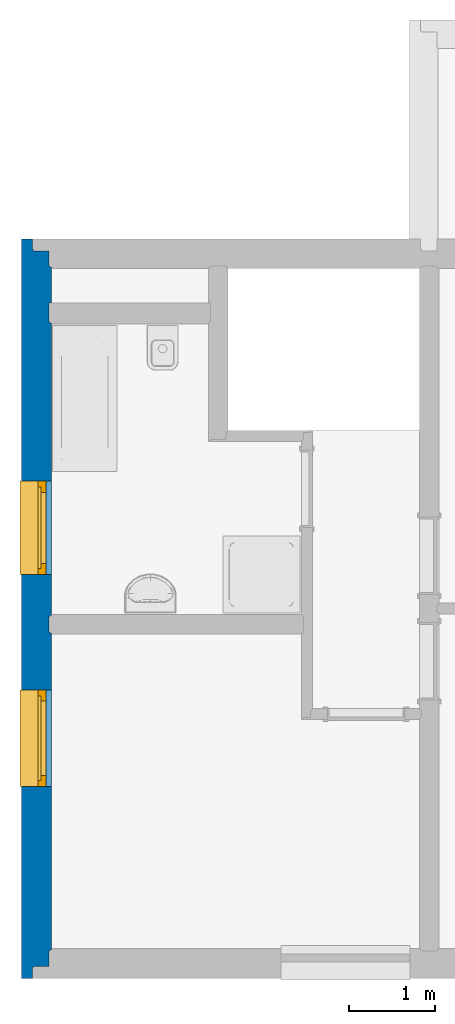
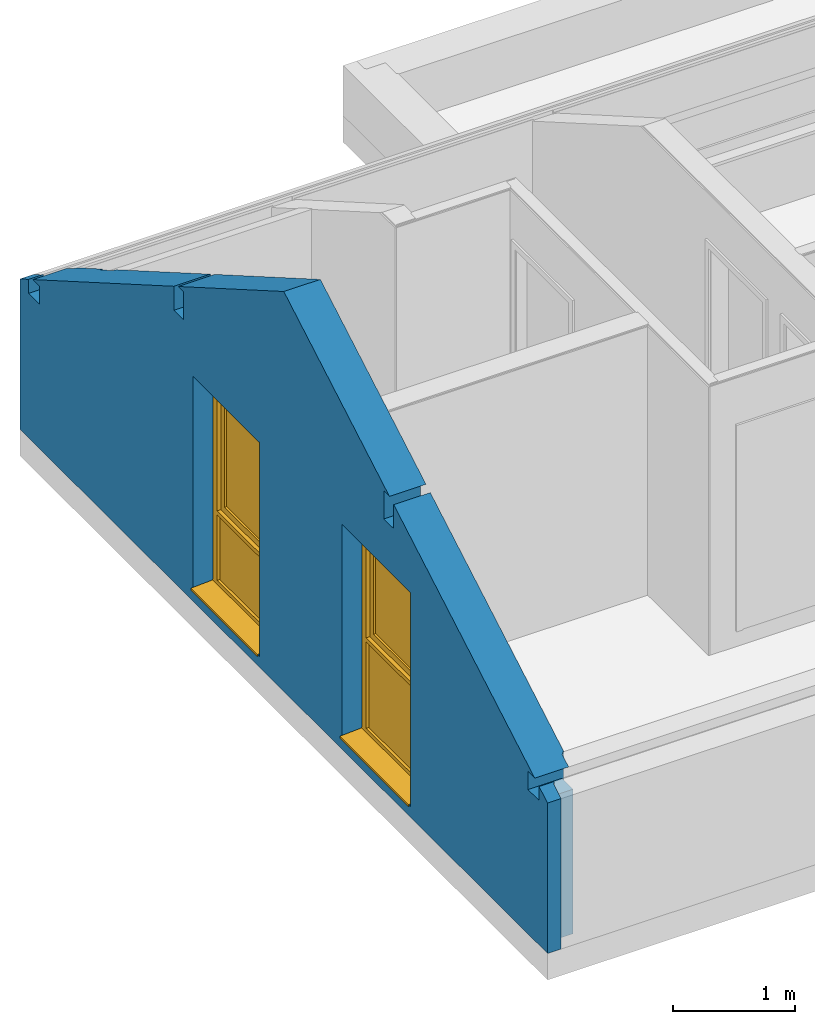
# One storey, part 3 of 7: 2 windows, 1 wall, 2 openings.
"""IFC2X3 building model written with IfcOpenShell, lengths in millimetres."""

from ifc_helpers import new_model, entity, si_unit, converted_unit, derived_unit, money_unit, direction, frame, origin_with_axes, place, context, subcontext, project, spatial, open_shell, faceted_brep, surface_model, material, material_list, type_object, element, fill, save


model = new_model("IFC2X3")

# Units and contexts
model_context = context("Model", 3, precision=0.01, world=origin_with_axes(), true_north=direction((0.0, 1.0)))
body_context = subcontext(model_context, "Body", "Model", "MODEL_VIEW")
ifc_project = project(units=[si_unit("LENGTHUNIT", "METRE", prefix="MILLI"), si_unit("AREAUNIT", "SQUARE_METRE"), si_unit("VOLUMEUNIT", "CUBIC_METRE"), converted_unit("PLANEANGLEUNIT", "DEGREE", entity("IfcPlaneAngleMeasure", 0.0174532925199), si_unit("PLANEANGLEUNIT", "RADIAN"), dimensions=[0, 0, 0, 0, 0, 0, 0]), si_unit("SOLIDANGLEUNIT", "STERADIAN"), money_unit("USD"), converted_unit("TIMEUNIT", "Year", entity("IfcTimeMeasure", 31556926.0), si_unit("TIMEUNIT", "SECOND"), dimensions=[0, 0, 1, 0, 0, 0, 0]), si_unit("MASSUNIT", "GRAM", prefix="KILO"), si_unit("THERMODYNAMICTEMPERATUREUNIT", "DEGREE_CELSIUS"), si_unit("LUMINOUSINTENSITYUNIT", "LUMEN"), si_unit("ENERGYUNIT", "JOULE", prefix="MEGA"), derived_unit("THERMALCONDUCTANCEUNIT", [(si_unit("POWERUNIT", "WATT"), 1), (si_unit("LENGTHUNIT", "METRE"), -1), (si_unit("THERMODYNAMICTEMPERATUREUNIT", "KELVIN"), -1)]), derived_unit("SPECIFICHEATCAPACITYUNIT", [(si_unit("ENERGYUNIT", "JOULE"), 1), (si_unit("MASSUNIT", "GRAM", prefix="KILO"), -1), (si_unit("THERMODYNAMICTEMPERATUREUNIT", "KELVIN"), -1)]), derived_unit("MASSDENSITYUNIT", [(si_unit("MASSUNIT", "GRAM", prefix="KILO"), 1), (si_unit("VOLUMEUNIT", "CUBIC_METRE"), -1)])], contexts=[model_context])

# Site, building, storey
site_placement = place(None, origin_with_axes())
site = spatial("IfcSite", under=ifc_project, at=site_placement, Name="Lokalizacja", CompositionType="ELEMENT")
building_placement = place(site_placement, origin_with_axes())
building = spatial("IfcBuilding", under=site, at=building_placement, Name="Budynek", CompositionType="ELEMENT")
storey_placement = place(building_placement, frame((0.0, 0.0, 2954.0), z_axis=(0.0, 0.0, 1.0), x_axis=(1.0, 0.0, 0.0)))
storey = spatial("IfcBuildingStorey", under=building, at=storey_placement, Name="DG", CompositionType="ELEMENT", Elevation=2954.0)

# Wall, openings, windows
ifc_material_1 = material(Name="Płyta GK")
ifc_material_2 = material(Name="Płyta OSB")
ifc_material_3 = material(Name="Drewno konstrukcyjne")
ifc_material_4 = material(Name="Płyty styropianowe miękkie")
ifc_material_list = material_list([ifc_material_1, ifc_material_2, ifc_material_3, ifc_material_2, ifc_material_4])
wall_type = type_object("IfcWallType", Name="002- _dan_SZ_345 345", PredefinedType="NOTDEFINED")
wall_placement = place(storey_placement, frame((1.15823794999e-07, 1.16529008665e-09, -160.0), z_axis=(0.0, 0.0, 1.0), x_axis=(0.0, -1.0, 0.0)))
wall = element("IfcWall", 1, at=wall_placement, inside=storey, type_object=wall_type, material=ifc_material_list, Name="SZ2", context=body_context, shape_type="Brep", body=[
    faceted_brep([(2239.09167504, -13.0, 2992.0), (2239.09167504, 1.46637506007e-05, 2992.0), (2329.00015984, 1.46637505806e-05, 2992.0), (2329.00015984, -13.0, 2992.0), (3965.00117698, 9.86424186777e-06, 3988.45431554), (3965.00117839, -12.999997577, 3988.45431635), (637.000159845, 1.12678220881e-05, 2067.03203244), (2169.00015984, 1.46637506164e-05, 2951.53264483), (2169.00015984, 1.46637506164e-05, 2712.0), (2329.00015984, 1.46637505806e-05, 2712.0), (5690.90864033, 1.46637498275e-05, 2992.0), (5601.00236524, 1.46637498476e-05, 2992.0), (5601.00236524, 1.46637498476e-05, 2712.0), (5761.00236524, 1.46637498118e-05, 2712.0), (5761.00236524, 1.46637498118e-05, 2951.53136905), (7942.99728939, 1.45989797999e-05, 1691.75601222), (7942.99728939, 0.0, 0.0), (4250.5279971, 0.0, 0.0), (4250.5279971, 1.46637501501e-05, 2690.0), (4046.5279971, 1.46637501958e-05, 2690.0), (4046.5279971, 0.0, 0.0), (637.000159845, 0.0, 0.0), (2329.00015984, -13.0, 2712.0), (2169.00015984, -13.0, 2951.53264483), (637.000159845, -13.0000037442, 2067.03203244), (637.000159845, -13.0, 0.0), (4046.5279971, -13.0, 0.0), (4046.5279971, -13.0000048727, 2690.0), (4250.5279971, -13.0000048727, 2690.0), (4250.5279971, -13.0, 0.0), (7942.99728939, -13.0, 0.0), (7942.99728939, -13.0000048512, 1691.75601222), (5761.00236524, -13.0, 2951.53136905), (5761.00236524, -13.0, 2712.0), (5601.00236524, -13.0, 2712.0), (5601.00236524, -13.0, 2992.0), (5690.90864033, -13.0, 2992.0), (2169.00015984, -13.0, 2712.0)], [[[0, 1, 2, 3]], [[4, 1, 0, 5]], [[6, 7, 8, 9, 2, 1, 4, 10, 11, 12, 13, 14, 15, 16, 17, 18, 19, 20, 21]], [[22, 3, 2, 9]], [[23, 24, 25, 26, 27, 28, 29, 30, 31, 32, 33, 34, 35, 36, 5, 0, 3, 22, 37]], [[4, 5, 36, 10]], [[7, 6, 24, 23]], [[7, 23, 37, 8]], [[37, 22, 9, 8]], [[11, 10, 36, 35]], [[35, 34, 12, 11]], [[34, 33, 13, 12]], [[33, 32, 14, 13]], [[15, 14, 32, 31]], [[16, 15, 31, 30]], [[30, 29, 17, 16]], [[17, 29, 28, 18]], [[28, 27, 19, 18]], [[19, 27, 26, 20]], [[21, 20, 26, 25]], [[24, 6, 21, 25]]]),
    faceted_brep([(-13.0, -12.9999903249, 1691.75426518), (-13.0, 5.04165776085e-06, 1691.75426518), (-13.0, 0.0, 0.0), (-13.0, -13.0, 0.0), (405.000159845, -13.0000035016, 1933.08676998), (405.000159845, 1.05376586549e-05, 1933.08676998), (405.000159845, 0.0, 0.0), (405.000159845, -13.0, 0.0)], [[[0, 1, 2, 3]], [[1, 0, 4, 5]], [[1, 5, 6, 2]], [[7, 3, 2, 6]], [[4, 0, 3, 7]], [[5, 4, 7, 6]]]),
    faceted_brep([(2239.09167504, -25.0, 2992.0), (2239.09167504, -13.0000048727, 2992.0), (2329.00015984, -13.0000048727, 2992.0), (2329.00015984, -25.0, 2992.0), (3965.00117839, -12.999997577, 3988.45431635), (3965.00117968, -24.9999999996, 3988.4543171), (625.000159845, -13.0000037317, 2060.1038292), (2169.00015984, -13.0000048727, 2951.53264483), (2169.00015984, -13.0000048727, 2712.0), (2329.00015984, -13.0000048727, 2712.0), (5690.90864033, -13.0000048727, 2992.0), (5601.00236524, -13.0000048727, 2992.0), (5601.00236524, -13.0000048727, 2712.0), (5761.00236524, -13.0000048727, 2712.0), (5761.00236524, -13.0000048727, 2951.53136905), (7954.99728939, -13.0000048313, 1684.82780899), (7954.99728939, -13.0, 0.0), (4238.5279971, -13.0, 0.0), (4238.5279971, -13.0000048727, 2690.0), (4058.5279971, -13.0000048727, 2690.0), (4058.5279971, -13.0, 0.0), (625.000159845, -13.0, 0.0), (2329.00015984, -25.0, 2712.0), (2169.00015984, -25.0, 2951.53264483), (625.000159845, -25.0, 2060.1038292), (625.000159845, -25.0, 0.0), (4058.5279971, -25.0, 0.0), (4058.5279971, -25.0, 2690.0), (4238.5279971, -25.0, 2690.0), (4238.5279971, -25.0, 0.0), (7954.99728939, -25.0, 0.0), (7954.99728939, -25.0, 1684.82780899), (5761.00236524, -25.0, 2951.53136905), (5761.00236524, -25.0, 2712.0), (5601.00236524, -25.0, 2712.0), (5601.00236524, -25.0, 2992.0), (5690.90864033, -25.0, 2992.0), (2169.00015984, -25.0, 2712.0)], [[[0, 1, 2, 3]], [[4, 1, 0, 5]], [[6, 7, 8, 9, 2, 1, 4, 10, 11, 12, 13, 14, 15, 16, 17, 18, 19, 20, 21]], [[22, 3, 2, 9]], [[23, 24, 25, 26, 27, 28, 29, 30, 31, 32, 33, 34, 35, 36, 5, 0, 3, 22, 37]], [[4, 5, 36, 10]], [[7, 6, 24, 23]], [[7, 23, 37, 8]], [[37, 22, 9, 8]], [[11, 10, 36, 35]], [[35, 34, 12, 11]], [[34, 33, 13, 12]], [[33, 32, 14, 13]], [[15, 14, 32, 31]], [[16, 15, 31, 30]], [[30, 29, 17, 16]], [[17, 29, 28, 18]], [[18, 28, 27, 19]], [[19, 27, 26, 20]], [[21, 20, 26, 25]], [[24, 6, 21, 25]]]),
    faceted_brep([(-25.0, -25.0, 1684.82606195), (-25.0, -12.9999903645, 1684.82606195), (-25.0, -13.0, 0.0), (-25.0, -25.0, 0.0), (405.000159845, -25.0, 1933.08676998), (405.000159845, -13.0000035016, 1933.08676998), (405.000159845, -13.0, 0.0), (405.000159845, -25.0, 0.0)], [[[0, 1, 2, 3]], [[1, 0, 4, 5]], [[1, 5, 6, 2]], [[7, 3, 2, 6]], [[4, 0, 3, 7]], [[5, 4, 7, 6]]]),
    faceted_brep([(2239.09167504, -205.0, 2992.0), (2239.09167504, -25.0, 2992.0), (2329.00015984, -25.0, 2992.0), (2329.00015984, -205.0, 2992.0), (3965.00117968, -24.9999999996, 3988.4543171), (3965.00119912, -205.0, 3988.45432833), (-135.000000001, -25.0, 1621.31753233), (2169.00015984, -25.0, 2951.53264483), (2169.00015984, -25.0, 2712.0), (2329.00015984, -25.0, 2712.0), (5690.90864033, -25.0, 2992.0), (5601.00236524, -25.0, 2992.0), (5601.00236524, -25.0, 2712.0), (5761.00236524, -25.0, 2712.0), (5761.00236524, -25.0, 2951.53136905), (8065.00031537, -25.0, 1621.31753233), (7955.00031537, -25.0, 1621.31753233), (7955.00031537, -25.0, 1441.31753233), (8135.00031537, -25.0, 1441.31753233), (8134.99728939, -25.0, 0.0), (-205.0, -25.0, 0.0), (-205.0, -25.0, 1441.31753233), (-25.0, -25.0, 1441.31753233), (-25.0, -25.0, 1621.31753233), (2329.00015984, -205.0, 2712.0), (2169.00015984, -205.0, 2951.53264483), (-135.000000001, -205.0, 1621.31753233), (-25.0, -205.0, 1621.31753233), (-25.0, -205.0, 1441.31753233), (-205.0, -205.0, 1441.31753233), (-205.0, -205.0, 0.0), (8134.99728939, -205.0, 0.0), (8135.00031537, -205.0, 1441.31753233), (7955.00031537, -205.0, 1441.31753233), (7955.00031537, -205.0, 1621.31753233), (8065.00031537, -205.0, 1621.31753233), (5761.00236524, -205.0, 2951.53136905), (5761.00236524, -205.0, 2712.0), (5601.00236524, -205.0, 2712.0), (5601.00236524, -205.0, 2992.0), (5690.90864033, -205.0, 2992.0), (2169.00015984, -205.0, 2712.0)], [[[0, 1, 2, 3]], [[4, 1, 0, 5]], [[6, 7, 8, 9, 2, 1, 4, 10, 11, 12, 13, 14, 15, 16, 17, 18, 19, 20, 21, 22, 23]], [[24, 3, 2, 9]], [[25, 26, 27, 28, 29, 30, 31, 32, 33, 34, 35, 36, 37, 38, 39, 40, 5, 0, 3, 24, 41]], [[4, 5, 40, 10]], [[6, 26, 25, 7]], [[7, 25, 41, 8]], [[41, 24, 9, 8]], [[11, 10, 40, 39]], [[39, 38, 12, 11]], [[38, 37, 13, 12]], [[37, 36, 14, 13]], [[15, 14, 36, 35]], [[16, 15, 35, 34]], [[34, 33, 17, 16]], [[33, 32, 18, 17]], [[31, 19, 18, 32]], [[31, 30, 20, 19]], [[20, 30, 29, 21]], [[29, 28, 22, 21]], [[28, 27, 23, 22]], [[26, 6, 23, 27]]]),
    faceted_brep([(2239.09167504, -217.0, 2992.0), (2239.09167504, -205.0, 2992.0), (2329.00015984, -205.0, 2992.0), (2329.00015984, -217.0, 2992.0), (3965.00119912, -205.0, 3988.45432833), (3965.00120042, -217.000012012, 3988.45432907), (-217.0, -205.0, 1573.97481026), (-205.0, -205.0, 1580.90301349), (-205.0, -205.0, 1441.31753233), (-25.0, -205.0, 1441.31753233), (-25.0, -205.0, 1621.31753233), (-135.000000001, -205.0, 1621.31753233), (2169.00015984, -205.0, 2951.53264483), (2169.00015984, -205.0, 2712.0), (2329.00015984, -205.0, 2712.0), (5690.90864033, -205.0, 2992.0), (5601.00236524, -205.0, 2992.0), (5601.00236524, -205.0, 2712.0), (5761.00236524, -205.0, 2712.0), (5761.00236524, -205.0, 2951.53136905), (8065.00031537, -205.0, 1621.31753233), (7955.00031537, -205.0, 1621.31753233), (7955.00031537, -205.0, 1441.31753233), (8135.00031537, -205.0, 1441.31753233), (8135.00031537, -205.0, 1580.90301349), (8146.99728939, -205.0, 1573.97655731), (8146.99728939, -205.0, 0.0), (-217.0, -205.0, 0.0), (2329.00015984, -217.0, 2712.0), (-205.0, -217.0, 1580.90301349), (-217.0, -217.00001328, 1573.97481026), (-217.0, -217.0, 0.0), (8146.99728939, -217.0, 0.0), (8146.99728939, -217.000008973, 1573.97655731), (8135.00031537, -217.0, 1580.90301349), (8135.00031537, -217.0, 1441.31753233), (7955.00031537, -217.0, 1441.31753233), (7955.00031537, -217.0, 1621.31753233), (8065.00031537, -217.0, 1621.31753233), (5761.00236524, -217.0, 2951.53136905), (5761.00236524, -217.0, 2712.0), (5601.00236524, -217.0, 2712.0), (5601.00236524, -217.0, 2992.0), (5690.90864033, -217.0, 2992.0), (2169.00015984, -217.0, 2712.0), (2169.00015984, -217.0, 2951.53264483), (-135.000000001, -217.0, 1621.31753233), (-25.0, -217.0, 1621.31753233), (-25.0, -217.0, 1441.31753233), (-205.0, -217.0, 1441.31753233)], [[[0, 1, 2, 3]], [[4, 1, 0, 5]], [[6, 7, 8, 9, 10, 11, 12, 13, 14, 2, 1, 4, 15, 16, 17, 18, 19, 20, 21, 22, 23, 24, 25, 26, 27]], [[28, 3, 2, 14]], [[29, 30, 31, 32, 33, 34, 35, 36, 37, 38, 39, 40, 41, 42, 43, 5, 0, 3, 28, 44, 45, 46, 47, 48, 49]], [[4, 5, 43, 15]], [[7, 6, 30, 29]], [[7, 29, 49, 8]], [[49, 48, 9, 8]], [[48, 47, 10, 9]], [[46, 11, 10, 47]], [[11, 46, 45, 12]], [[12, 45, 44, 13]], [[44, 28, 14, 13]], [[16, 15, 43, 42]], [[42, 41, 17, 16]], [[41, 40, 18, 17]], [[40, 39, 19, 18]], [[20, 19, 39, 38]], [[21, 20, 38, 37]], [[37, 36, 22, 21]], [[36, 35, 23, 22]], [[35, 34, 24, 23]], [[33, 25, 24, 34]], [[26, 25, 33, 32]], [[32, 31, 27, 26]], [[30, 6, 27, 31]]]),
    faceted_brep([(2239.09167504, -345.0, 2992.0), (2239.09167504, -217.000009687, 2992.0), (2329.00015984, -217.000009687, 2992.0), (2329.00015984, -345.0, 2992.0), (3965.00120042, -217.000012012, 3988.45432907), (3965.00121425, -345.0, 3988.45433706), (-344.999995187, -217.000012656, 1500.07397858), (-205.0, -217.000009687, 1580.90301349), (-205.0, -217.000009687, 1441.31753233), (-25.0, -217.000009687, 1441.31753233), (-25.0, -217.000009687, 1621.31753233), (-135.000000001, -217.000009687, 1621.31753233), (2169.00015984, -217.000009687, 2951.53264483), (2169.00015984, -217.000009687, 2712.0), (2329.00015984, -217.000009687, 2712.0), (5690.90864033, -217.000009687, 2992.0), (5601.00236524, -217.000009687, 2992.0), (5601.00236524, -217.000009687, 2712.0), (5761.00236524, -217.000009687, 2712.0), (5761.00236524, -217.000009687, 2951.53136905), (8065.00031537, -217.000009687, 1621.31753233), (7955.00031537, -217.000009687, 1621.31753233), (7955.00031537, -217.000009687, 1441.31753233), (8135.00031537, -217.000009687, 1441.31753233), (8135.00031537, -217.000009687, 1580.90301349), (8274.99728939, -217.000008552, 1500.07572285), (8274.99728939, -217.0, 0.0), (-344.999995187, -217.0, 0.0), (2329.00015984, -345.0, 2712.0), (-205.0, -345.0, 1580.90301349), (-344.999995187, -345.0, 1500.07397858), (-344.999995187, -345.0, 0.0), (8274.99728939, -345.0, 0.0), (8274.99728939, -345.0, 1500.07572285), (8135.00031537, -345.0, 1580.90301349), (8135.00031537, -345.0, 1441.31753233), (7955.00031537, -345.0, 1441.31753233), (7955.00031537, -345.0, 1621.31753233), (8065.00031537, -345.0, 1621.31753233), (5761.00236524, -345.0, 2951.53136905), (5761.00236524, -345.0, 2712.0), (5601.00236524, -345.0, 2712.0), (5601.00236524, -345.0, 2992.0), (5690.90864033, -345.0, 2992.0), (2169.00015984, -345.0, 2712.0), (2169.00015984, -345.0, 2951.53264483), (-135.000000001, -345.0, 1621.31753233), (-25.0, -345.0, 1621.31753233), (-25.0, -345.0, 1441.31753233), (-205.0, -345.0, 1441.31753233)], [[[0, 1, 2, 3]], [[4, 1, 0, 5]], [[6, 7, 8, 9, 10, 11, 12, 13, 14, 2, 1, 4, 15, 16, 17, 18, 19, 20, 21, 22, 23, 24, 25, 26, 27]], [[28, 3, 2, 14]], [[29, 30, 31, 32, 33, 34, 35, 36, 37, 38, 39, 40, 41, 42, 43, 5, 0, 3, 28, 44, 45, 46, 47, 48, 49]], [[4, 5, 43, 15]], [[7, 6, 30, 29]], [[7, 29, 49, 8]], [[49, 48, 9, 8]], [[48, 47, 10, 9]], [[46, 11, 10, 47]], [[11, 46, 45, 12]], [[12, 45, 44, 13]], [[44, 28, 14, 13]], [[16, 15, 43, 42]], [[42, 41, 17, 16]], [[41, 40, 18, 17]], [[40, 39, 19, 18]], [[20, 19, 39, 38]], [[21, 20, 38, 37]], [[37, 36, 22, 21]], [[36, 35, 23, 22]], [[35, 34, 24, 23]], [[33, 25, 24, 34]], [[26, 25, 33, 32]], [[32, 31, 27, 26]], [[30, 6, 27, 31]]]),
])
opening_1_placement = place(wall_placement, frame((3025.00000588, 0.0, 107.0), z_axis=(0.0, 0.0, 1.0), x_axis=(1.0, 0.0, 0.0)))
opening_1 = element("IfcOpeningElement", 2, at=opening_1_placement, cuts=wall, context=body_context, shape_type="Brep", body=[
    faceted_brep([(545.0, -690.0, 2135.0), (545.0, -690.0, 0.0), (545.0, -157.0, 0.0), (545.0, -157.0, 2135.0), (-545.0, -690.0, 2135.0), (-545.0, -690.0, 0.0), (-545.0, -157.0, 0.0), (-545.0, -157.0, 2135.0)], [[[0, 1, 2, 3]], [[0, 4, 5, 1]], [[1, 5, 6, 2]], [[3, 2, 6, 7]], [[4, 0, 3, 7]], [[5, 4, 7, 6]]]),
    faceted_brep([(545.0, 345.0, 0.0), (545.0, 345.0, 2135.0), (545.0, -157.0, 2135.0), (545.0, -157.0, 0.0), (-545.0, 345.0, 0.0), (-545.0, 345.0, 2135.0), (-545.0, -157.0, 2135.0), (-545.0, -157.0, 0.0)], [[[0, 1, 2, 3]], [[0, 4, 5, 1]], [[1, 5, 6, 2]], [[3, 2, 6, 7]], [[4, 0, 3, 7]], [[5, 4, 7, 6]]]),
])
opening_2_placement = place(wall_placement, frame((5476.49985193, 0.0, 107.0), z_axis=(0.0, 0.0, 1.0), x_axis=(1.0, 0.0, 0.0)))
opening_2 = element("IfcOpeningElement", 3, at=opening_2_placement, cuts=wall, context=body_context, shape_type="Brep", body=[
    faceted_brep([(-562.5, -157.0, 2135.0), (-562.5, -157.0, 0.0), (-562.5, -690.0, 0.0), (-562.5, -690.0, 2135.0), (562.5, -157.0, 2135.0), (562.5, -157.0, 0.0), (562.5, -690.0, 0.0), (562.5, -690.0, 2135.0)], [[[0, 1, 2, 3]], [[0, 4, 5, 1]], [[1, 5, 6, 2]], [[3, 2, 6, 7]], [[4, 0, 3, 7]], [[5, 4, 7, 6]]]),
    faceted_brep([(-562.5, -157.0, 0.0), (-562.5, -157.0, 2135.0), (-562.5, 345.0, 2135.0), (-562.5, 345.0, 0.0), (562.5, -157.0, 0.0), (562.5, -157.0, 2135.0), (562.5, 345.0, 2135.0), (562.5, 345.0, 0.0)], [[[0, 1, 2, 3]], [[0, 4, 5, 1]], [[1, 5, 6, 2]], [[3, 2, 6, 7]], [[4, 0, 3, 7]], [[5, 4, 7, 6]]]),
])
window_style_1 = type_object("IfcWindowStyle", Name="Okno nietypowe 24", ConstructionType="NOTDEFINED", OperationType="DOUBLE_PANEL_HORIZONTAL", ParameterTakesPrecedence=False, Sizeable=False)
window_1_placement = place(opening_1_placement, frame((-535.0, 0.0, 0.0), z_axis=(0.0, 0.0, 1.0), x_axis=(1.0, 0.0, 0.0)))
window_1 = element("IfcWindow", 4, at=window_1_placement, inside=storey, type_object=window_style_1, OverallHeight=2135.0, OverallWidth=1090.0, context=body_context, shape_type="SurfaceModel", body=[
    faceted_brep([(59.9, -121.0, 2065.0), (59.9, -61.0, 2065.0), (-10.0, -61.0, 2065.0), (-10.0, -157.0, 2065.0), (60.0, -157.0, 2065.0), (60.0, -121.0, 2065.0), (59.9, -121.0, 769.9), (59.9, -61.0, 769.9), (60.0, -61.0, 769.9), (60.0, -61.0, 730.0), (60.0, -61.0, 77.0), (-10.0, -61.0, 77.0), (-10.0, -157.0, 77.0), (60.0, -157.0, 730.0), (60.0, -157.0, 770.0), (60.0, -157.0, 77.0), (60.0, -121.0, 770.0), (60.0, -121.0, 769.9)], [[[0, 1, 2, 3, 4, 5]], [[1, 0, 6, 7]], [[1, 7, 8, 9, 10, 11, 2]], [[3, 2, 11, 12]], [[13, 14, 4, 3, 12, 15]], [[16, 5, 4, 14]], [[5, 16, 17, 6, 0]], [[8, 7, 6, 17]], [[8, 17, 16, 14, 13, 9]], [[15, 10, 9, 13]], [[12, 11, 10, 15]]]),
    faceted_brep([(1010.1, -121.0, 2065.0), (1010.0, -121.0, 2065.0), (1010.0, -157.0, 2065.0), (1080.0, -157.0, 2065.0), (1080.0, -61.0, 2065.0), (1010.1, -61.0, 2065.0), (1010.1, -121.0, 769.9), (1010.0, -121.0, 769.9), (1010.0, -121.0, 770.0), (1010.0, -157.0, 770.0), (1010.0, -157.0, 77.0), (1080.0, -157.0, 77.0), (1010.0, -157.0, 730.0), (1080.0, -61.0, 77.0), (1010.0, -61.0, 769.9), (1010.1, -61.0, 769.9), (1010.0, -61.0, 77.0), (1010.0, -61.0, 730.0)], [[[0, 1, 2, 3, 4, 5]], [[1, 0, 6, 7, 8]], [[1, 8, 9, 2]], [[10, 11, 3, 2, 9, 12]], [[11, 13, 4, 3]], [[14, 15, 5, 4, 13, 16, 17]], [[5, 15, 6, 0]], [[15, 14, 7, 6]], [[8, 7, 14, 17, 12, 9]], [[10, 16, 13, 11]], [[12, 17, 16, 10]]]),
    faceted_brep([(59.9, -61.0, 2065.1), (59.9, -61.0, 2065.0), (-10.0, -61.0, 2065.0), (-10.0, -61.0, 2135.0), (1080.0, -61.0, 2135.0), (1080.0, -61.0, 2065.0), (1010.1, -61.0, 2065.0), (1010.1, -61.0, 2065.1), (59.9, -121.0, 2065.1), (59.9, -121.0, 2065.0), (60.0, -121.0, 2065.0), (60.0, -157.0, 2065.0), (-10.0, -157.0, 2065.0), (-10.0, -157.0, 2135.0), (1080.0, -157.0, 2135.0), (1080.0, -157.0, 2065.0), (1010.0, -121.0, 2065.0), (1010.1, -121.0, 2065.0), (1010.0, -157.0, 2065.0), (1010.1, -121.0, 2065.1)], [[[0, 1, 2, 3, 4, 5, 6, 7]], [[1, 0, 8, 9]], [[1, 9, 10, 11, 12, 2]], [[13, 3, 2, 12]], [[14, 4, 3, 13]], [[15, 5, 4, 14]], [[16, 17, 6, 5, 15, 18]], [[7, 6, 17, 19]], [[0, 7, 19, 8]], [[17, 16, 10, 9, 8, 19]], [[10, 16, 18, 11]], [[18, 15, 14, 13, 12, 11]]]),
    faceted_brep([(1010.1, -121.0, 829.9), (950.1, -121.0, 829.9), (950.1, -61.0, 829.9), (1010.1, -61.0, 829.9), (950.1, -121.0, 2005.1), (1010.1, -121.0, 2005.1), (950.1, -61.0, 2005.1), (1010.1, -61.0, 2005.1)], [[[0, 1, 2, 3]], [[4, 1, 0, 5]], [[1, 4, 6, 2]], [[3, 2, 6, 7]], [[5, 0, 3, 7]], [[4, 5, 7, 6]]]),
    faceted_brep([(59.9, -121.0, 2005.1), (59.9, -121.0, 2065.1), (59.9, -61.0, 2065.1), (59.9, -61.0, 2005.1), (1010.1, -121.0, 2065.1), (119.9, -121.0, 2005.1), (950.1, -121.0, 2005.1), (1010.1, -121.0, 2005.1), (1010.1, -61.0, 2065.1), (1010.1, -61.0, 2005.1), (950.1, -61.0, 2005.1), (119.9, -61.0, 2005.1)], [[[0, 1, 2, 3]], [[4, 1, 0, 5, 6, 7]], [[1, 4, 8, 2]], [[3, 2, 8, 9, 10, 11]], [[5, 0, 3, 11]], [[6, 5, 11, 10]], [[7, 6, 10, 9]], [[4, 7, 9, 8]]]),
    surface_model("IfcShellBasedSurfaceModel", [(119.9, -101.0, 829.9), (950.1, -101.0, 829.9), (950.1, -101.0, 2005.1), (119.9, -101.0, 2005.1)], [open_shell([[[0, 1, 2, 3]]])]),
    surface_model("IfcShellBasedSurfaceModel", [(119.9, -81.0, 829.9), (119.9, -81.0, 2005.1), (950.1, -81.0, 2005.1), (950.1, -81.0, 829.9)], [open_shell([[[0, 1, 2, 3]]])]),
    faceted_brep([(59.9, -121.0, 2005.1), (119.9, -121.0, 2005.1), (119.9, -61.0, 2005.1), (59.9, -61.0, 2005.1), (119.9, -121.0, 829.9), (59.9, -121.0, 829.9), (119.9, -61.0, 829.9), (59.9, -61.0, 829.9)], [[[0, 1, 2, 3]], [[4, 1, 0, 5]], [[1, 4, 6, 2]], [[3, 2, 6, 7]], [[5, 0, 3, 7]], [[4, 5, 7, 6]]]),
    faceted_brep([(1010.1, -121.0, 829.9), (1010.1, -121.0, 769.9), (1010.1, -61.0, 769.9), (1010.1, -61.0, 829.9), (59.9, -121.0, 769.9), (950.1, -121.0, 829.9), (119.9, -121.0, 829.9), (59.9, -121.0, 829.9), (59.9, -61.0, 769.9), (59.9, -61.0, 829.9), (119.9, -61.0, 829.9), (950.1, -61.0, 829.9)], [[[0, 1, 2, 3]], [[4, 1, 0, 5, 6, 7]], [[1, 4, 8, 2]], [[3, 2, 8, 9, 10, 11]], [[5, 0, 3, 11]], [[6, 5, 11, 10]], [[7, 6, 10, 9]], [[4, 7, 9, 8]]]),
    surface_model("IfcShellBasedSurfaceModel", [(-10.0, -158.0, 50.0), (-10.0, -158.0, 40.0), (1080.0, -158.0, 40.0), (1080.0, -158.0, 50.0), (-10.0, -365.0, 28.9361702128), (1080.0, -365.0, 28.9361702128), (-10.0, -365.0, 8.93617021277), (1080.0, -365.0, 8.93617021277), (-10.0, -355.0, 18.9361702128), (1080.0, -355.0, 18.9361702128)], [open_shell([[[0, 1, 2, 3]], [[1, 4, 5, 2]], [[4, 6, 7, 5]], [[6, 8, 9, 7]]])]),
    faceted_brep([(60.0, -121.0, 770.0), (60.0, -157.0, 770.0), (1010.0, -157.0, 770.0), (1010.0, -121.0, 770.0), (60.0, -121.0, 769.9), (60.0, -61.0, 769.9), (60.0, -61.0, 730.0), (60.0, -157.0, 730.0), (1010.0, -157.0, 730.0), (1010.0, -121.0, 769.9), (1010.0, -61.0, 730.0), (1010.0, -61.0, 769.9)], [[[0, 1, 2, 3]], [[4, 5, 6, 7, 1, 0]], [[8, 2, 1, 7]], [[9, 3, 2, 8, 10, 11]], [[9, 4, 0, 3]], [[5, 4, 9, 11]], [[11, 10, 6, 5]], [[6, 10, 8, 7]]]),
    faceted_brep([(60.0, -157.0, 77.0), (60.0, -61.0, 77.0), (-10.0, -61.0, 77.0), (-10.0, -157.0, 77.0), (1010.0, -157.0, 77.0), (1010.0, -61.0, 77.0), (1080.0, -61.0, 77.0), (1080.0, -61.0, 0.0), (-10.0, -61.0, 0.0), (-10.0, -157.0, 0.0), (1080.0, -157.0, 0.0), (1080.0, -157.0, 77.0)], [[[0, 1, 2, 3]], [[4, 5, 1, 0]], [[1, 5, 6, 7, 8, 2]], [[3, 2, 8, 9]], [[0, 3, 9, 10, 11, 4]], [[11, 6, 5, 4]], [[10, 7, 6, 11]], [[9, 8, 7, 10]]]),
    surface_model("IfcShellBasedSurfaceModel", [(60.0, -131.0, 77.0), (1010.0, -131.0, 77.0), (1010.0, -131.0, 730.0), (60.0, -131.0, 730.0)], [open_shell([[[0, 1, 2, 3]]])]),
    surface_model("IfcShellBasedSurfaceModel", [(60.0, -111.0, 77.0), (60.0, -111.0, 730.0), (1010.0, -111.0, 730.0), (1010.0, -111.0, 77.0)], [open_shell([[[0, 1, 2, 3]]])]),
])
fill(opening_1, window_1)
window_style_2 = type_object("IfcWindowStyle", Name="Okno nietypowe 24", ConstructionType="NOTDEFINED", OperationType="DOUBLE_PANEL_HORIZONTAL", ParameterTakesPrecedence=False, Sizeable=False)
window_2_placement = place(opening_2_placement, frame((-552.5, 0.0, 0.0), z_axis=(0.0, 0.0, 1.0), x_axis=(1.0, 0.0, 0.0)))
window_2 = element("IfcWindow", 5, at=window_2_placement, inside=storey, type_object=window_style_2, OverallHeight=2135.0, OverallWidth=1125.0, context=body_context, shape_type="SurfaceModel", body=[
    faceted_brep([(1115.0, -61.0, 2065.0), (1045.1, -61.0, 2065.0), (1045.1, -121.0, 2065.0), (1045.0, -121.0, 2065.0), (1045.0, -157.0, 2065.0), (1115.0, -157.0, 2065.0), (1045.0, -61.0, 979.9), (1045.1, -61.0, 979.9), (1115.0, -61.0, 77.0), (1045.0, -61.0, 77.0), (1045.0, -61.0, 940.0), (1045.1, -121.0, 979.9), (1045.0, -121.0, 979.9), (1045.0, -121.0, 980.0), (1045.0, -157.0, 980.0), (1045.0, -157.0, 940.0), (1045.0, -157.0, 77.0), (1115.0, -157.0, 77.0)], [[[0, 1, 2, 3, 4, 5]], [[6, 7, 1, 0, 8, 9, 10]], [[11, 2, 1, 7]], [[12, 13, 3, 2, 11]], [[4, 3, 13, 14]], [[4, 14, 15, 16, 17, 5]], [[8, 0, 5, 17]], [[11, 7, 6, 12]], [[9, 8, 17, 16]], [[10, 9, 16, 15]], [[13, 12, 6, 10, 15, 14]]]),
    faceted_brep([(60.0, -157.0, 2065.0), (60.0, -121.0, 2065.0), (59.9, -121.0, 2065.0), (59.9, -61.0, 2065.0), (-10.0, -61.0, 2065.0), (-10.0, -157.0, 2065.0), (60.0, -157.0, 980.0), (60.0, -121.0, 980.0), (59.9, -121.0, 979.9), (60.0, -121.0, 979.9), (59.9, -61.0, 979.9), (60.0, -61.0, 979.9), (60.0, -61.0, 940.0), (60.0, -61.0, 77.0), (-10.0, -61.0, 77.0), (-10.0, -157.0, 77.0), (60.0, -157.0, 77.0), (60.0, -157.0, 940.0)], [[[0, 1, 2, 3, 4, 5]], [[6, 7, 1, 0]], [[8, 2, 1, 7, 9]], [[8, 10, 3, 2]], [[3, 10, 11, 12, 13, 14, 4]], [[4, 14, 15, 5]], [[5, 15, 16, 17, 6, 0]], [[11, 9, 7, 6, 17, 12]], [[9, 11, 10, 8]], [[13, 12, 17, 16]], [[14, 13, 16, 15]]]),
    faceted_brep([(1115.0, -61.0, 2065.0), (1045.1, -61.0, 2065.0), (1045.1, -61.0, 2065.1), (59.9, -61.0, 2065.1), (59.9, -61.0, 2065.0), (-10.0, -61.0, 2065.0), (-10.0, -61.0, 2135.0), (1115.0, -61.0, 2135.0), (1045.0, -121.0, 2065.0), (1045.1, -121.0, 2065.0), (1115.0, -157.0, 2065.0), (1045.0, -157.0, 2065.0), (1045.1, -121.0, 2065.1), (59.9, -121.0, 2065.1), (59.9, -121.0, 2065.0), (60.0, -121.0, 2065.0), (60.0, -157.0, 2065.0), (-10.0, -157.0, 2065.0), (-10.0, -157.0, 2135.0), (1115.0, -157.0, 2135.0)], [[[0, 1, 2, 3, 4, 5, 6, 7]], [[8, 9, 1, 0, 10, 11]], [[12, 2, 1, 9]], [[13, 3, 2, 12]], [[14, 4, 3, 13]], [[4, 14, 15, 16, 17, 5]], [[6, 5, 17, 18]], [[7, 6, 18, 19]], [[0, 7, 19, 10]], [[8, 15, 14, 13, 12, 9]], [[18, 17, 16, 11, 10, 19]], [[16, 15, 8, 11]]]),
    faceted_brep([(119.9, -61.0, 1039.9), (119.9, -121.0, 1039.9), (59.9, -121.0, 1039.9), (59.9, -61.0, 1039.9), (119.9, -61.0, 2005.1), (119.9, -121.0, 2005.1), (59.9, -121.0, 2005.1), (59.9, -61.0, 2005.1)], [[[0, 1, 2, 3]], [[4, 5, 1, 0]], [[2, 1, 5, 6]], [[3, 2, 6, 7]], [[4, 0, 3, 7]], [[7, 6, 5, 4]]]),
    faceted_brep([(1045.1, -61.0, 2065.1), (1045.1, -121.0, 2065.1), (1045.1, -121.0, 2005.1), (1045.1, -61.0, 2005.1), (59.9, -61.0, 2065.1), (59.9, -121.0, 2065.1), (59.9, -121.0, 2005.1), (119.9, -121.0, 2005.1), (985.1, -121.0, 2005.1), (985.1, -61.0, 2005.1), (119.9, -61.0, 2005.1), (59.9, -61.0, 2005.1)], [[[0, 1, 2, 3]], [[4, 5, 1, 0]], [[2, 1, 5, 6, 7, 8]], [[3, 2, 8, 9]], [[4, 0, 3, 9, 10, 11]], [[11, 6, 5, 4]], [[10, 7, 6, 11]], [[9, 8, 7, 10]]]),
    surface_model("IfcShellBasedSurfaceModel", [(985.1, -101.0, 1039.9), (985.1, -101.0, 2005.1), (119.9, -101.0, 2005.1), (119.9, -101.0, 1039.9)], [open_shell([[[0, 1, 2, 3]]])]),
    surface_model("IfcShellBasedSurfaceModel", [(985.1, -81.0, 1039.9), (119.9, -81.0, 1039.9), (119.9, -81.0, 2005.1), (985.1, -81.0, 2005.1)], [open_shell([[[0, 1, 2, 3]]])]),
    faceted_brep([(985.1, -61.0, 2005.1), (985.1, -121.0, 2005.1), (1045.1, -121.0, 2005.1), (1045.1, -61.0, 2005.1), (985.1, -61.0, 1039.9), (985.1, -121.0, 1039.9), (1045.1, -121.0, 1039.9), (1045.1, -61.0, 1039.9)], [[[0, 1, 2, 3]], [[4, 5, 1, 0]], [[2, 1, 5, 6]], [[3, 2, 6, 7]], [[4, 0, 3, 7]], [[7, 6, 5, 4]]]),
    faceted_brep([(59.9, -61.0, 979.9), (59.9, -121.0, 979.9), (59.9, -121.0, 1039.9), (59.9, -61.0, 1039.9), (1045.1, -61.0, 979.9), (1045.1, -121.0, 979.9), (1045.1, -121.0, 1039.9), (985.1, -121.0, 1039.9), (119.9, -121.0, 1039.9), (119.9, -61.0, 1039.9), (985.1, -61.0, 1039.9), (1045.1, -61.0, 1039.9)], [[[0, 1, 2, 3]], [[4, 5, 1, 0]], [[2, 1, 5, 6, 7, 8]], [[3, 2, 8, 9]], [[4, 0, 3, 9, 10, 11]], [[11, 6, 5, 4]], [[10, 7, 6, 11]], [[9, 8, 7, 10]]]),
    surface_model("IfcShellBasedSurfaceModel", [(1115.0, -158.0, 50.0), (-10.0, -158.0, 50.0), (-10.0, -158.0, 40.0), (1115.0, -158.0, 40.0), (-10.0, -365.0, 28.9361702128), (1115.0, -365.0, 28.9361702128), (-10.0, -365.0, 8.93617021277), (1115.0, -365.0, 8.93617021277), (-10.0, -355.0, 18.9361702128), (1115.0, -355.0, 18.9361702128)], [open_shell([[[0, 1, 2, 3]], [[3, 2, 4, 5]], [[5, 4, 6, 7]], [[7, 6, 8, 9]]])]),
    faceted_brep([(1045.0, -121.0, 980.0), (60.0, -121.0, 980.0), (60.0, -157.0, 980.0), (1045.0, -157.0, 980.0), (60.0, -121.0, 979.9), (1045.0, -121.0, 979.9), (60.0, -61.0, 979.9), (60.0, -61.0, 940.0), (60.0, -157.0, 940.0), (1045.0, -157.0, 940.0), (1045.0, -61.0, 940.0), (1045.0, -61.0, 979.9)], [[[0, 1, 2, 3]], [[4, 1, 0, 5]], [[4, 6, 7, 8, 2, 1]], [[8, 9, 3, 2]], [[5, 0, 3, 9, 10, 11]], [[11, 6, 4, 5]], [[6, 11, 10, 7]], [[10, 9, 8, 7]]]),
    faceted_brep([(1045.0, -157.0, 77.0), (1115.0, -157.0, 77.0), (1115.0, -61.0, 77.0), (1045.0, -61.0, 77.0), (60.0, -157.0, 77.0), (-10.0, -157.0, 77.0), (-10.0, -157.0, 0.0), (1115.0, -157.0, 0.0), (1115.0, -61.0, 0.0), (-10.0, -61.0, 0.0), (-10.0, -61.0, 77.0), (60.0, -61.0, 77.0)], [[[0, 1, 2, 3]], [[0, 4, 5, 6, 7, 1]], [[1, 7, 8, 2]], [[3, 2, 8, 9, 10, 11]], [[4, 0, 3, 11]], [[5, 4, 11, 10]], [[6, 5, 10, 9]], [[7, 6, 9, 8]]]),
    surface_model("IfcShellBasedSurfaceModel", [(1045.0, -131.0, 77.0), (1045.0, -131.0, 940.0), (60.0, -131.0, 940.0), (60.0, -131.0, 77.0)], [open_shell([[[0, 1, 2, 3]]])]),
    surface_model("IfcShellBasedSurfaceModel", [(1045.0, -111.0, 77.0), (60.0, -111.0, 77.0), (60.0, -111.0, 940.0), (1045.0, -111.0, 940.0)], [open_shell([[[0, 1, 2, 3]]])]),
])
fill(opening_2, window_2)

save(model, "model.ifc")
